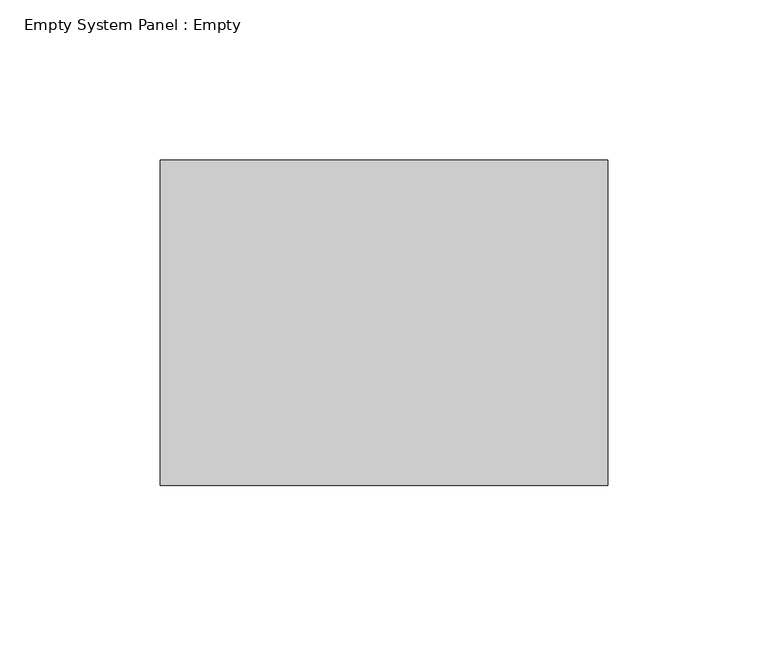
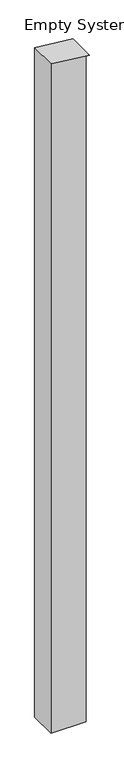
"""IFC4 building model written with IfcOpenShell, lengths in millimetres: plate geometry, Empty System Panel : Empty."""

from ifc_helpers import new_model, si_unit, frame, origin, place, context, project, spatial, polyline, outline, extrude, source, transform, mapped, element, save


def empty_system_panel_empty_451c11d5(model_context):
    return source(origin(), model_context, "Body", "SweptSolid", [
        extrude(outline(polyline([(0.0, -69.85), (0.0, 57.15), (2553.8544105, 57.15), (2553.8544105, 69.85), (2569.4796004, -69.85), (0.0, -69.85)])), frame((0.0, -50.8, 0.0), z_axis=(0.0, 1.0, 0.0), x_axis=(0.0, 0.0, 1.0)), (0.0, 0.0, 1.0), 101.6),
    ])


if __name__ == "__main__":
    model = new_model("IFC4")
    model_context = context("Model", 3, world=origin())
    ifc_project = project(units=[si_unit("LENGTHUNIT", "METRE", prefix="MILLI")], contexts=[model_context])
    site = spatial("IfcSite", under=ifc_project)
    building = spatial("IfcBuilding", under=site)
    placement = place(None, origin())
    empty_system_panel_empty_shape = empty_system_panel_empty_451c11d5(model_context)
    element("IfcPlate", 1, ObjectType="Empty System Panel : Empty", at=placement, inside=building, context=model_context, shape_type="MappedRepresentation", body=[
        mapped(empty_system_panel_empty_shape, transform((0.0, 0.0, 0.0), x_axis=(1.0, 0.0, 0.0), y_axis=(0.0, 1.0, 0.0), z_axis=(0.0, 0.0, 1.0))),
    ])
    save(model, "model.ifc")
